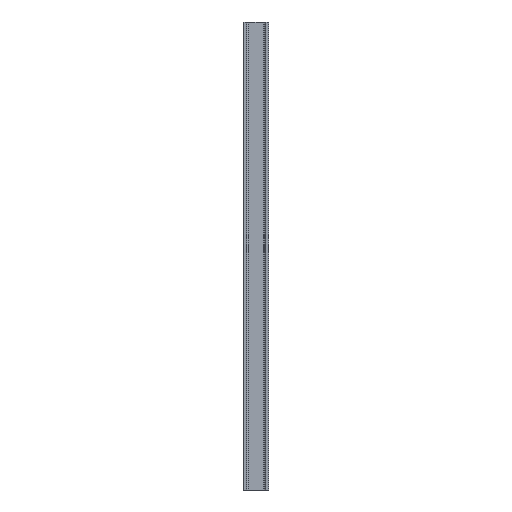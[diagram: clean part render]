
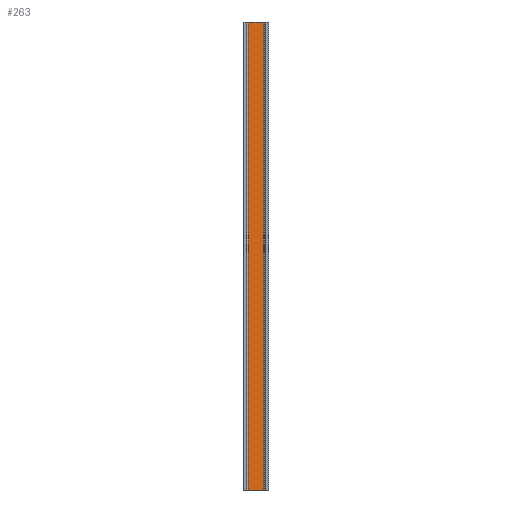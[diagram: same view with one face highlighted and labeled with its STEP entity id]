
A CAD part, front view. The second image highlights one B-rep face of the part: STEP entity #263.
In plain terms, the highlighted planar face has unit normal (0, -1, 0).
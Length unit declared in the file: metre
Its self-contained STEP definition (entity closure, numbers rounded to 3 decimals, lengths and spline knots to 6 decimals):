
#263=ADVANCED_FACE('4:12282',(#716),#717,.T.);
#716=FACE_OUTER_BOUND('',#1224,.T.);
#717=PLANE('',#1225);
#1224=EDGE_LOOP('',(#1946,#1947,#1948,#1949));
#1225=AXIS2_PLACEMENT_3D('',#1950,#1951,#1952);
#1946=ORIENTED_EDGE('',*,*,#2741,.T.);
#1947=ORIENTED_EDGE('',*,*,#2723,.T.);
#1948=ORIENTED_EDGE('',*,*,#2744,.F.);
#1949=ORIENTED_EDGE('',*,*,#2745,.T.);
#1950=CARTESIAN_POINT('',(-0.013628,0.013608,0.0));
#1951=DIRECTION('',(-0.0,-1.0,-0.0));
#1952=DIRECTION('',(-1.0,0.0,0.0));
#2723=EDGE_CURVE('4:12525',#3083,#3081,#3084,.F.);
#2741=EDGE_CURVE('4:12519',#3109,#3083,#3110,.T.);
#2744=EDGE_CURVE('4:12528',#3113,#3081,#3114,.T.);
#2745=EDGE_CURVE('4:12531',#3113,#3109,#3115,.T.);
#3081=VERTEX_POINT('',#3556);
#3083=VERTEX_POINT('',#3558);
#3084=LINE('',#3559,#3560);
#3109=VERTEX_POINT('',#3595);
#3110=LINE('',#3596,#3597);
#3113=VERTEX_POINT('',#3600);
#3114=LINE('',#3601,#3602);
#3115=LINE('',#3603,#3604);
#3556=CARTESIAN_POINT('',(-0.008047,0.013608,-0.31));
#3558=CARTESIAN_POINT('',(-0.019209,0.013608,-0.31));
#3559=CARTESIAN_POINT('',(-0.009586,0.013608,-0.31));
#3560=VECTOR('',#4081,1.0);
#3595=CARTESIAN_POINT('',(-0.019209,0.013608,0.0));
#3596=CARTESIAN_POINT('',(-0.019209,0.013608,0.0));
#3597=VECTOR('',#4098,1.0);
#3600=CARTESIAN_POINT('',(-0.008047,0.013608,0.0));
#3601=CARTESIAN_POINT('',(-0.008047,0.013608,0.0));
#3602=VECTOR('',#4102,1.0);
#3603=CARTESIAN_POINT('',(-0.008047,0.013608,0.0));
#3604=VECTOR('',#4103,1.0);
#4081=DIRECTION('',(-1.0,0.0,0.0));
#4098=DIRECTION('',(0.0,0.0,-1.0));
#4102=DIRECTION('',(0.0,0.0,-1.0));
#4103=DIRECTION('',(-1.0,0.0,0.0));
